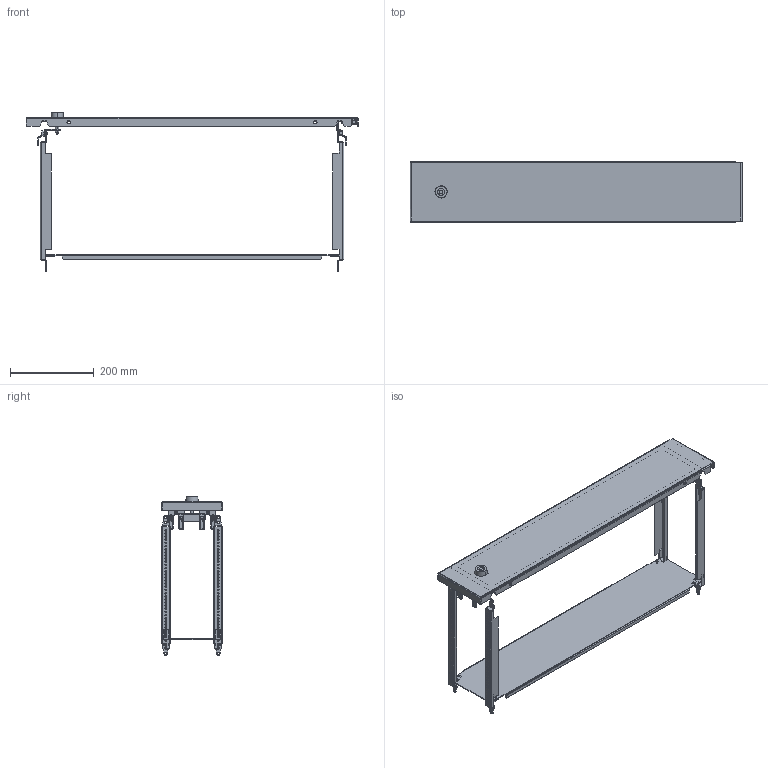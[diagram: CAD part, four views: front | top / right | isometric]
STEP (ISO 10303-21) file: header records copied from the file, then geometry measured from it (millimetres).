
FILE_DESCRIPTION(('CAx-IF Rec.Pracs.---Model Styling and Organization---1.2---2011-12-15','CAx-IF Rec.Pracs.---Geometric and Assembly Validation Properties---4.1---2014-06-16','CAx-IF Rec.Pracs.---PMI Polyline Presentation---2.0---2013-05-24'),'2;1');
FILE_NAME('R5PKEB0815.stp','2021-05-05T13:48:18+03:00',(''),(''),'STEP Interface 4.4 by CT CoreTechnologie','3D_Evolution4.4 by CT CoreTechnologie','');
FILE_SCHEMA(('AUTOMOTIVE_DESIGN { 1 0 10303 214 1 1 1 1 }'));
Length unit declared in the file: millimetre
Products named in the file (19): R5PKEB0815; RB.0329.00.00.0_-00; RB.0348.00.00.0_-00; RB.0586.00.00.0_-01; R5CPMEM_R5CPMEM8150; M6 x 16-DIN 7991 ISR_thread; AC00C485; AC00C745; RB.0116.00.00.2_-00; RB.0572.00.00.1 ÑÁ_-02; RB.0572.00.01.1_-02; Ì6õ12-A5100231_straight; PF 7x14 R5PKEB_0150x0800; AC00C266; AC00C061_AC00C061; MS737-1-1; MS737-1-1 Z_ ªàëâ; MS737-1-1 stop_fixed; RB.0687.00.00.1_-00
Assembly tree (37 placements, depth 4):
  R5PKEB0815
    RB.0329.00.00.0_-00  x4
    RB.0348.00.00.0_-00  x4
    RB.0586.00.00.0_-01
    R5CPMEM_R5CPMEM8150
      M6 x 16-DIN 7991 ISR_thread  x6
      AC00C485  x6
      AC00C745  x2
      RB.0116.00.00.2_-00  x2
      RB.0572.00.00.1 ÑÁ_-02
        RB.0572.00.01.1_-02
        Ì6õ12-A5100231_straight
        PF 7x14 R5PKEB_0150x0800
        AC00C266  x2
        AC00C061_AC00C061
      MS737-1-1
        MS737-1-1 Z_ ªàëâ
        MS737-1-1 stop_fixed
      RB.0687.00.00.1_-00
Bounding box: 794 x 145 x 379.4 mm (x, y, z)
Surface area: 762936.2 mm2 (no closed solid volume)
Topology: 0 solids, 74 shells, 2026 faces, 5163 edges, 3267 vertices
Faces by surface type: cylinder 945, plane 811, bspline 270
Entity records: 28891 total; most frequent: CARTESIAN_POINT 7759, DIRECTION 4222, ORIENTED_EDGE 4134, EDGE_CURVE 2067, AXIS2_PLACEMENT_3D 1488, VERTEX_POINT 1325, VECTOR 1246, LINE 1246
